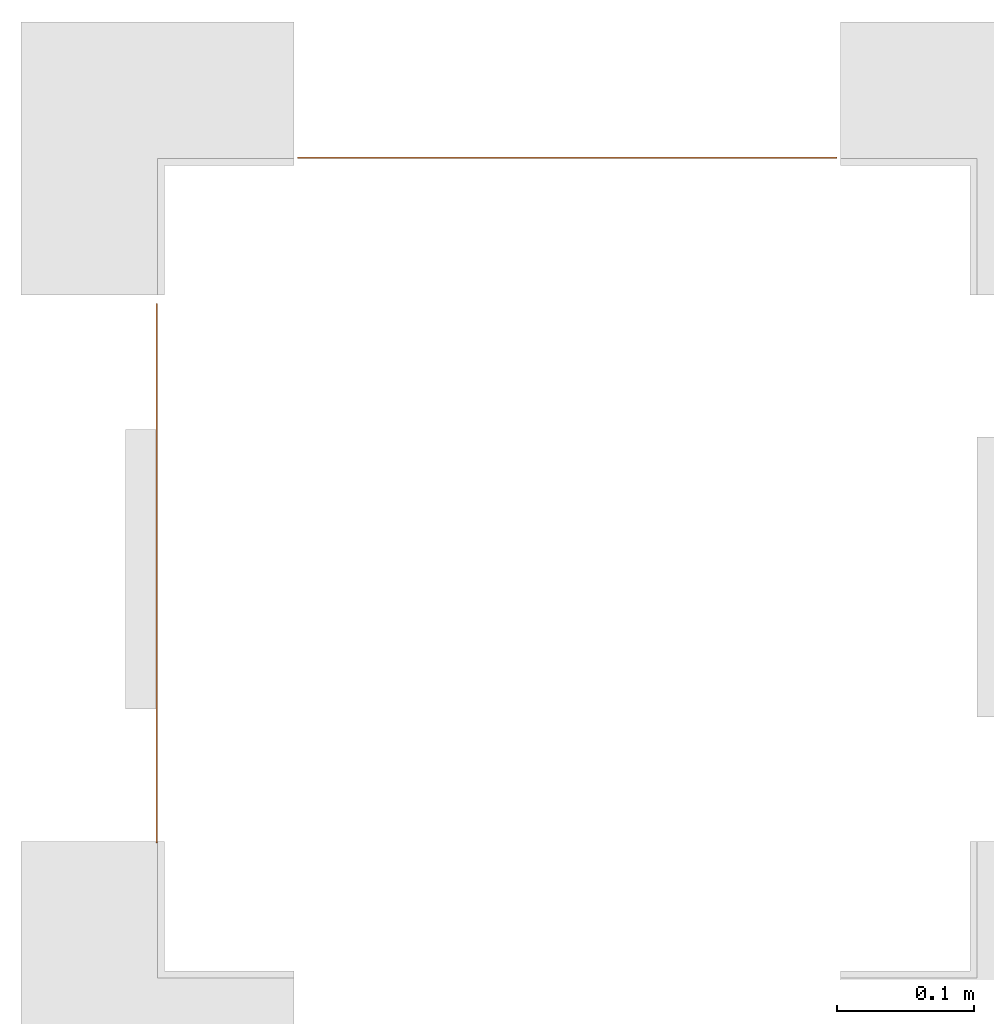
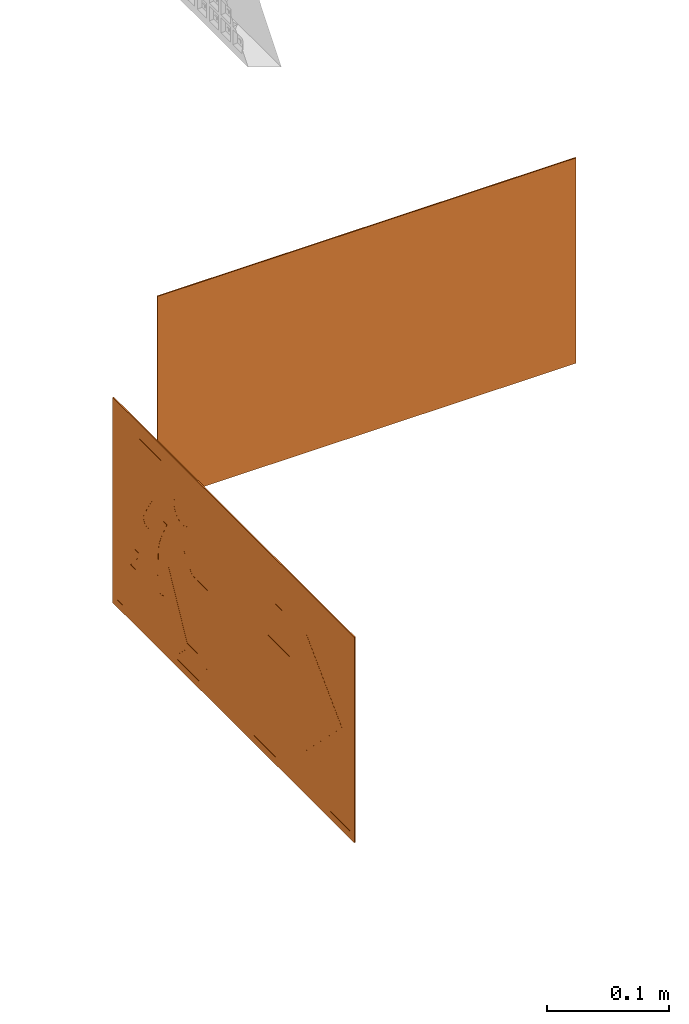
# One storey, part 86 of 119: 2 proxies.
"""IFC2X3 building model written with IfcOpenShell, lengths in metres."""

from ifc_helpers import new_model, entity, si_unit, converted_unit, derived_unit, direction, frame, frame_2d, origin, origin_2d_with_axis, place, context, subcontext, project, spatial, polyline, circle_curve, parameter, trimmed, segment, composite_curve, rectangle, outline, extrude, source, transform, mapped, material, material_list, type_object, type_shapes, element, save


model = new_model("IFC2X3")

# Units and contexts
model_context = context("Model", 3, precision=1e-05, world=origin(), true_north=direction((6.12303176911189e-17, 1.0)))
body_context = subcontext(model_context, "Body", "Model", "MODEL_VIEW")
ifc_project = project(units=[si_unit("LENGTHUNIT", "METRE"), si_unit("AREAUNIT", "SQUARE_METRE"), si_unit("VOLUMEUNIT", "CUBIC_METRE"), converted_unit("PLANEANGLEUNIT", "DEGREE", entity("IfcRatioMeasure", 0.0174532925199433), si_unit("PLANEANGLEUNIT", "RADIAN"), dimensions=[0, 0, 0, 0, 0, 0, 0]), si_unit("MASSUNIT", "GRAM", prefix="KILO"), derived_unit("MASSDENSITYUNIT", [(si_unit("MASSUNIT", "GRAM", prefix="KILO"), 1), (si_unit("LENGTHUNIT", "METRE"), -3)]), derived_unit("MOMENTOFINERTIAUNIT", [(si_unit("LENGTHUNIT", "METRE"), 4)]), si_unit("TIMEUNIT", "SECOND"), si_unit("FREQUENCYUNIT", "HERTZ"), si_unit("THERMODYNAMICTEMPERATUREUNIT", "DEGREE_CELSIUS"), derived_unit("THERMALTRANSMITTANCEUNIT", [(si_unit("MASSUNIT", "GRAM", prefix="KILO"), 1), (si_unit("THERMODYNAMICTEMPERATUREUNIT", "KELVIN"), -1), (si_unit("TIMEUNIT", "SECOND"), -3)]), derived_unit("VOLUMETRICFLOWRATEUNIT", [(si_unit("LENGTHUNIT", "METRE"), 3), (si_unit("TIMEUNIT", "SECOND"), -1)]), si_unit("ELECTRICCURRENTUNIT", "AMPERE"), si_unit("ELECTRICVOLTAGEUNIT", "VOLT"), si_unit("POWERUNIT", "WATT"), si_unit("FORCEUNIT", "NEWTON", prefix="KILO"), si_unit("ILLUMINANCEUNIT", "LUX"), si_unit("LUMINOUSFLUXUNIT", "LUMEN"), si_unit("LUMINOUSINTENSITYUNIT", "CANDELA"), derived_unit("USERDEFINED", [(si_unit("MASSUNIT", "GRAM", prefix="KILO"), -1), (si_unit("LENGTHUNIT", "METRE"), -2), (si_unit("TIMEUNIT", "SECOND"), 3), (si_unit("LUMINOUSFLUXUNIT", "LUMEN"), 1)]), derived_unit("LINEARVELOCITYUNIT", [(si_unit("LENGTHUNIT", "METRE"), 1), (si_unit("TIMEUNIT", "SECOND"), -1)]), si_unit("PRESSUREUNIT", "PASCAL"), derived_unit("USERDEFINED", [(si_unit("LENGTHUNIT", "METRE"), -2), (si_unit("MASSUNIT", "GRAM", prefix="KILO"), 1), (si_unit("TIMEUNIT", "SECOND"), -2)]), derived_unit("LINEARFORCEUNIT", [(si_unit("MASSUNIT", "GRAM", prefix="KILO"), 1), (si_unit("LENGTHUNIT", "METRE"), 1), (si_unit("TIMEUNIT", "SECOND"), -2), (si_unit("LENGTHUNIT", "METRE"), -1)]), derived_unit("PLANARFORCEUNIT", [(si_unit("MASSUNIT", "GRAM", prefix="KILO"), 1), (si_unit("LENGTHUNIT", "METRE"), 1), (si_unit("TIMEUNIT", "SECOND"), -2), (si_unit("LENGTHUNIT", "METRE"), -2)])], contexts=[model_context])

# Site, building, storey
site_placement = place(None, origin())
site = spatial("IfcSite", under=ifc_project, at=site_placement, Name="Default", CompositionType="ELEMENT")
building_placement = place(site_placement, origin())
building = spatial("IfcBuilding", under=site, at=building_placement, CompositionType="ELEMENT")
storey_placement = place(building_placement, origin())
storey = spatial("IfcBuildingStorey", under=building, at=storey_placement, Name="PAV. 01 - TÉRREO", CompositionType="ELEMENT", Elevation=0.0)

# Proxies
ifc_material_1 = material(Name="Plastico branco")
ifc_material_2 = material(Name="Plastico Verde")
ifc_material_list_1 = material_list([ifc_material_1, ifc_material_2])
building_element_proxy_type_1 = type_object("IfcBuildingElementProxyType", Name="Sinalização de orientação - S01 - Indicação do sentido da saída de emergência direita:Distância 12m", PredefinedType="NOTDEFINED", material=ifc_material_1)
shared_shape_1 = source(origin(), body_context, "Body", "SweptSolid", [
    extrude(outline(polyline([(0.0124622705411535, 0.0340163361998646), (0.0116069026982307, 0.0335634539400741), (0.0110082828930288, 0.0323153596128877), (0.0106205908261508, 0.0304379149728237), (0.0103980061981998, 0.0280969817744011), (0.0102947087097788, 0.0254584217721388), (0.0102359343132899, 0.0148408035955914), (0.0100952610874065, 0.0101688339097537), (0.00995272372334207, 0.00797089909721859), (0.00974625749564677, 0.00585117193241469), (0.00946401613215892, 0.00379928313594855), (0.00909414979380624, 0.0018048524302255), (0.00861827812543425, -0.000162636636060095), (0.00799797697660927, -0.00219550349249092), (0.00719098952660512, -0.00439788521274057), (0.00615505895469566, -0.0068739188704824), (0.00484792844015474, -0.00972774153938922), (0.00322734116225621, -0.0130634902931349), (-0.00393772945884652, -0.0270036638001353), (0.00911414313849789, -0.0269659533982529), (0.00975353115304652, -0.0269418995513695), (0.0101589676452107, -0.0269097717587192), (0.0104072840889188, -0.0268684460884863), (0.0105753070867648, -0.026816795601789), (0.0107283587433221, -0.0267465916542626), (0.0108956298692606, -0.0266273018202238), (0.0110992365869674, -0.0264240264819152), (0.0113612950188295, -0.02610186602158), (0.0117039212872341, -0.02562592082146), (0.0121492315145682, -0.0249612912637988), (0.0134363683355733, -0.022926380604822), (0.0220622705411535, -0.00866366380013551), (0.0231418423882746, -0.00739752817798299), (0.024244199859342, -0.00641124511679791), (0.0253551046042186, -0.00568750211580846), (0.026460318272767, -0.0052089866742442), (0.0275456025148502, -0.00495838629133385), (0.0285967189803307, -0.00491838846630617), (0.0295994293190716, -0.00507168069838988), (0.0305394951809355, -0.00540095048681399), (0.0314026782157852, -0.00588888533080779), (0.0321747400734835, -0.00651817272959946), (0.0328414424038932, -0.0072715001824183), (0.033388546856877, -0.00813155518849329), (0.0338018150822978, -0.00908102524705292), (0.0340670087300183, -0.0101025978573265), (0.0341698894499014, -0.0111789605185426), (0.0340962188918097, -0.0122928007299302), (0.0338317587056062, -0.0134268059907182), (0.0333622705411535, -0.0145636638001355), (0.027258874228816, -0.0250738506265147), (0.0231922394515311, -0.0317577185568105), (0.020455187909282, -0.0355759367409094), (0.0183405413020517, -0.0374891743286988), (0.0161486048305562, -0.0384492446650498), (0.0134863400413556, -0.0390450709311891), (0.0103684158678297, -0.0393831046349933), (0.00683771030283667, -0.0395364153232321), (-0.0223273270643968, -0.0395794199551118), (-0.0254276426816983, -0.0395207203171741), (-0.0281392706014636, -0.0392326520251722), (-0.0306250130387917, -0.0385308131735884), (-0.0330476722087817, -0.0372308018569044), (-0.0355700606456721, -0.0351482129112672), (-0.0383972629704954, -0.0320852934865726), (-0.0418729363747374, -0.0278005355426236), (-0.0522577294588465, -0.0145636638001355), (-0.0701177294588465, -0.0145636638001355), (-0.0701177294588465, -0.0855036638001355), (0.0426422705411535, -0.0855036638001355), (0.0426422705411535, 0.0290963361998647), (0.0481022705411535, 0.0290963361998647), (0.0680622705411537, 0.0537563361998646), (0.0426422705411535, 0.0537563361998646), (0.0426422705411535, 0.0764363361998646), (0.0551222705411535, 0.0891363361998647), (-0.0240977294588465, 0.0891363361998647), (-0.0371577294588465, 0.0764363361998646), (-0.0542977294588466, 0.0764363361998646), (-0.039344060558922, 0.0891363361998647), (-0.0579777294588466, 0.0891363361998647), (-0.0701177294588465, 0.0764363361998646), (-0.0701177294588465, -0.00182366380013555), (-0.0500921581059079, -0.00182052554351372), (-0.048376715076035, -0.00187323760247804), (-0.0469973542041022, -0.00203451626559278), (-0.0458400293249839, -0.00235707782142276), (-0.0447906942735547, -0.00289363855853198), (-0.0437353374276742, -0.0036968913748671), (-0.0425823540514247, -0.00480435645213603), (-0.0413011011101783, -0.00621227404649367), (-0.0398712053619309, -0.00790993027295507), (-0.0322577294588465, -0.0173836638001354), (-0.0217377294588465, 0.00417633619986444), (-0.0542977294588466, 0.0709363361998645), (-0.0371577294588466, 0.0709363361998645), (-0.00639772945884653, 0.0127763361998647), (-0.00393772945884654, 0.0340163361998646), (-0.00373167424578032, 0.0366224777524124), (-0.00346846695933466, 0.0389264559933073), (-0.00310194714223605, 0.0409426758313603), (-0.00258595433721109, 0.0426855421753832), (-0.00187432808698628, 0.0441694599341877), (-0.000920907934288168, 0.0454088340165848), (0.000320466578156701, 0.0464180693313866), (0.00189595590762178, 0.0472115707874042), (0.00385172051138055, 0.0478037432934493), (0.00623392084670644, 0.0482089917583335), (0.00908871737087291, 0.0484417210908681), (0.0124622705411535, 0.0485163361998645), (0.0551222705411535, 0.0485163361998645), (0.0426422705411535, 0.0340163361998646), (0.0124622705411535, 0.0340163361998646)]), holes=[composite_curve([segment(trimmed(circle_curve(frame_2d((-0.0288977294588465, -0.0559436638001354), x_axis=(-1.0, 0.0)), 0.0134), [parameter(180.0)], [parameter(360.0)], True, "PARAMETER"), False, "CONTINUOUS"), segment(trimmed(circle_curve(frame_2d((-0.0288977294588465, -0.0559436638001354), x_axis=(-1.0, 0.0)), 0.0134), [parameter(2.03555499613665e-13)], [parameter(180.0)], True, "PARAMETER"), False, "CONTINUOUS")], self_intersect=False)]), frame((-0.112957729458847, -0.00110000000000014, 1.90431633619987), z_axis=(0.0, -1.0, 0.0), x_axis=(-1.0, 0.0, 0.0)), (0.0, 0.0, -1.0), 0.0011),
    extrude(outline(polyline([(-0.102500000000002, -0.197500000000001), (0.102500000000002, -0.197500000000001), (0.102500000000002, 0.197500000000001), (-0.102500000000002, 0.197500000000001), (-0.102500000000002, -0.197500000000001)]), holes=[polyline([(-0.0950000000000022, -0.190000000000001), (-0.0950000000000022, 0.189999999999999), (0.0949999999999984, 0.189999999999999), (0.0949999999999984, -0.190000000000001), (-0.0950000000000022, -0.190000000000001)])]), frame((0.0, -0.0011, 1.9025), z_axis=(0.0, 1.0, 0.0), x_axis=(0.0, 0.0, -1.0)), (0.0, 0.0, 1.0), 0.0011),
    extrude(rectangle(XDim=0.001, YDim=0.38, at=origin_2d_with_axis()), frame((0.0, -0.0005, 1.8075), z_axis=(0.0, 0.0, 1.0), x_axis=(0.0, 1.0, 0.0)), (0.0, 0.0, 1.0), 0.190000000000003),
    extrude(outline(polyline([(-0.0165808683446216, -0.0648778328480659), (0.0648778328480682, -0.0648778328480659), (0.0648778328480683, 0.016580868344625), (0.0289709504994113, 0.0524877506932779), (0.0289709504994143, -0.00190290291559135), (-0.0467319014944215, 0.073799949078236), (-0.0737999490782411, 0.0467319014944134), (0.00190290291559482, -0.0289709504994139), (-0.0524877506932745, -0.028970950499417), (-0.0165808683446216, -0.0648778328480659)])), frame((0.0852288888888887, -0.0011, 1.9025), z_axis=(0.0, 1.0, 0.0), x_axis=(0.707106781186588, 0.0, -0.707106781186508)), (0.0, 0.0, 1.0), 0.0011),
])
type_shapes(building_element_proxy_type_1, [shared_shape_1])
proxy_1_placement = place(storey_placement, frame((81.173781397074, 0.728683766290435, 0.0), z_axis=(0.0, 0.0, 1.0), x_axis=(-1.0, 0.0, 0.0)))
element("IfcBuildingElementProxy", 1, at=proxy_1_placement, inside=storey, type_object=building_element_proxy_type_1, material=ifc_material_list_1, Name="Sinalização de orientação - S01 - Indicação do sentido da saída de emergência direita:Distância 12m", ObjectType="Sinalização de orientação - S01 - Indicação do sentido da saída de emergência direita:Distância 12m", context=body_context, shape_type="MappedRepresentation", body=[
    mapped(shared_shape_1, transform((0.0, 0.0, 0.0), scale=1.0)),
])
ifc_material_list_2 = material_list([ifc_material_1, ifc_material_2])
building_element_proxy_type_2 = type_object("IfcBuildingElementProxyType", Name="Sinalização de orientação - S01 - Indicação do sentido da saída de emergência direita:Distância 12m", PredefinedType="NOTDEFINED", material=ifc_material_1)
shared_shape_2 = source(origin(), body_context, "Body", "SweptSolid", [
    extrude(outline(polyline([(0.0124622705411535, 0.0340163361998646), (0.0116069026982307, 0.0335634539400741), (0.0110082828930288, 0.0323153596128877), (0.0106205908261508, 0.0304379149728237), (0.0103980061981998, 0.0280969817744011), (0.0102947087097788, 0.0254584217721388), (0.0102359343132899, 0.0148408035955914), (0.0100952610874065, 0.0101688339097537), (0.00995272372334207, 0.00797089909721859), (0.00974625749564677, 0.00585117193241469), (0.00946401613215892, 0.00379928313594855), (0.00909414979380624, 0.0018048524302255), (0.00861827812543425, -0.000162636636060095), (0.00799797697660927, -0.00219550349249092), (0.00719098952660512, -0.00439788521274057), (0.00615505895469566, -0.0068739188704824), (0.00484792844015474, -0.00972774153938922), (0.00322734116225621, -0.0130634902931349), (-0.00393772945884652, -0.0270036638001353), (0.00911414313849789, -0.0269659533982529), (0.00975353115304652, -0.0269418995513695), (0.0101589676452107, -0.0269097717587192), (0.0104072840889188, -0.0268684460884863), (0.0105753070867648, -0.026816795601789), (0.0107283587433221, -0.0267465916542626), (0.0108956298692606, -0.0266273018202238), (0.0110992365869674, -0.0264240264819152), (0.0113612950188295, -0.02610186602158), (0.0117039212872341, -0.02562592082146), (0.0121492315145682, -0.0249612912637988), (0.0134363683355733, -0.022926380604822), (0.0220622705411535, -0.00866366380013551), (0.0231418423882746, -0.00739752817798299), (0.024244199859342, -0.00641124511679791), (0.0253551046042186, -0.00568750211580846), (0.026460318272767, -0.0052089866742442), (0.0275456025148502, -0.00495838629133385), (0.0285967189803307, -0.00491838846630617), (0.0295994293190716, -0.00507168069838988), (0.0305394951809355, -0.00540095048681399), (0.0314026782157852, -0.00588888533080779), (0.0321747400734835, -0.00651817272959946), (0.0328414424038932, -0.0072715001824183), (0.033388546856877, -0.00813155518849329), (0.0338018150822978, -0.00908102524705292), (0.0340670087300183, -0.0101025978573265), (0.0341698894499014, -0.0111789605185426), (0.0340962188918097, -0.0122928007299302), (0.0338317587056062, -0.0134268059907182), (0.0333622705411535, -0.0145636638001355), (0.027258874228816, -0.0250738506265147), (0.0231922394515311, -0.0317577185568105), (0.020455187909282, -0.0355759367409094), (0.0183405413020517, -0.0374891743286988), (0.0161486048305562, -0.0384492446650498), (0.0134863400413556, -0.0390450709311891), (0.0103684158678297, -0.0393831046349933), (0.00683771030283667, -0.0395364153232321), (-0.0223273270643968, -0.0395794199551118), (-0.0254276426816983, -0.0395207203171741), (-0.0281392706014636, -0.0392326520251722), (-0.0306250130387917, -0.0385308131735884), (-0.0330476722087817, -0.0372308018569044), (-0.0355700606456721, -0.0351482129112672), (-0.0383972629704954, -0.0320852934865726), (-0.0418729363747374, -0.0278005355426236), (-0.0522577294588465, -0.0145636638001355), (-0.0701177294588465, -0.0145636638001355), (-0.0701177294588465, -0.0855036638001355), (0.0426422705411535, -0.0855036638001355), (0.0426422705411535, 0.0290963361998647), (0.0481022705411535, 0.0290963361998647), (0.0680622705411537, 0.0537563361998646), (0.0426422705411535, 0.0537563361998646), (0.0426422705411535, 0.0764363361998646), (0.0551222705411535, 0.0891363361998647), (-0.0240977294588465, 0.0891363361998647), (-0.0371577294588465, 0.0764363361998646), (-0.0542977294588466, 0.0764363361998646), (-0.039344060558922, 0.0891363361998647), (-0.0579777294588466, 0.0891363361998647), (-0.0701177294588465, 0.0764363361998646), (-0.0701177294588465, -0.00182366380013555), (-0.0500921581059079, -0.00182052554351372), (-0.048376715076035, -0.00187323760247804), (-0.0469973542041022, -0.00203451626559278), (-0.0458400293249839, -0.00235707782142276), (-0.0447906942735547, -0.00289363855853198), (-0.0437353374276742, -0.0036968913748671), (-0.0425823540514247, -0.00480435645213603), (-0.0413011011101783, -0.00621227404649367), (-0.0398712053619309, -0.00790993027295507), (-0.0322577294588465, -0.0173836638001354), (-0.0217377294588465, 0.00417633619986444), (-0.0542977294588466, 0.0709363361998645), (-0.0371577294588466, 0.0709363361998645), (-0.00639772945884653, 0.0127763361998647), (-0.00393772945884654, 0.0340163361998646), (-0.00373167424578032, 0.0366224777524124), (-0.00346846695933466, 0.0389264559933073), (-0.00310194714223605, 0.0409426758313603), (-0.00258595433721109, 0.0426855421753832), (-0.00187432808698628, 0.0441694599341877), (-0.000920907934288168, 0.0454088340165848), (0.000320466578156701, 0.0464180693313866), (0.00189595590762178, 0.0472115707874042), (0.00385172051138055, 0.0478037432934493), (0.00623392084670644, 0.0482089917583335), (0.00908871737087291, 0.0484417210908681), (0.0124622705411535, 0.0485163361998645), (0.0551222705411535, 0.0485163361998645), (0.0426422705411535, 0.0340163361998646), (0.0124622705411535, 0.0340163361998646)]), holes=[composite_curve([segment(trimmed(circle_curve(frame_2d((-0.0288977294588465, -0.0559436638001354), x_axis=(-1.0, 0.0)), 0.0134), [parameter(180.0)], [parameter(360.0)], True, "PARAMETER"), False, "CONTINUOUS"), segment(trimmed(circle_curve(frame_2d((-0.0288977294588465, -0.0559436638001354), x_axis=(-1.0, 0.0)), 0.0134), [parameter(2.03555499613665e-13)], [parameter(180.0)], True, "PARAMETER"), False, "CONTINUOUS")], self_intersect=False)]), frame((-0.112957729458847, -0.00110000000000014, 1.90431633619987), z_axis=(0.0, -1.0, 0.0), x_axis=(-1.0, 0.0, 0.0)), (0.0, 0.0, -1.0), 0.0011),
    extrude(outline(polyline([(-0.102500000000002, -0.197500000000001), (0.102500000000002, -0.197500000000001), (0.102500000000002, 0.197500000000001), (-0.102500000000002, 0.197500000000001), (-0.102500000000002, -0.197500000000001)]), holes=[polyline([(-0.0950000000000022, -0.190000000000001), (-0.0950000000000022, 0.189999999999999), (0.0949999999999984, 0.189999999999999), (0.0949999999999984, -0.190000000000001), (-0.0950000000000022, -0.190000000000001)])]), frame((0.0, -0.0011, 1.9025), z_axis=(0.0, 1.0, 0.0), x_axis=(0.0, 0.0, -1.0)), (0.0, 0.0, 1.0), 0.0011),
    extrude(rectangle(XDim=0.001, YDim=0.38, at=origin_2d_with_axis()), frame((0.0, -0.0005, 1.8075), z_axis=(0.0, 0.0, 1.0), x_axis=(0.0, 1.0, 0.0)), (0.0, 0.0, 1.0), 0.190000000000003),
    extrude(outline(polyline([(-0.0165808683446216, -0.0648778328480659), (0.0648778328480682, -0.0648778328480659), (0.0648778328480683, 0.016580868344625), (0.0289709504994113, 0.0524877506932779), (0.0289709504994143, -0.00190290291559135), (-0.0467319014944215, 0.073799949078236), (-0.0737999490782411, 0.0467319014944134), (0.00190290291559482, -0.0289709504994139), (-0.0524877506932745, -0.028970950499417), (-0.0165808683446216, -0.0648778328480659)])), frame((0.0852288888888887, -0.0011, 1.9025), z_axis=(0.0, 1.0, 0.0), x_axis=(0.707106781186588, 0.0, -0.707106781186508)), (0.0, 0.0, 1.0), 0.0011),
])
type_shapes(building_element_proxy_type_2, [shared_shape_2])
proxy_2_placement = place(storey_placement, frame((80.8737817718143, 0.425057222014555, 0.0), z_axis=(0.0, 0.0, 1.0), x_axis=(0.0, -1.0, 0.0)))
element("IfcBuildingElementProxy", 2, at=proxy_2_placement, inside=storey, type_object=building_element_proxy_type_2, material=ifc_material_list_2, Name="Sinalização de orientação - S01 - Indicação do sentido da saída de emergência direita:Distância 12m", ObjectType="Sinalização de orientação - S01 - Indicação do sentido da saída de emergência direita:Distância 12m", context=body_context, shape_type="MappedRepresentation", body=[
    mapped(shared_shape_2, transform((0.0, 0.0, 0.0), scale=1.0)),
])

save(model, "model.ifc")
